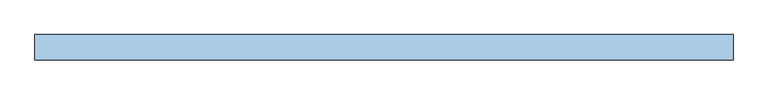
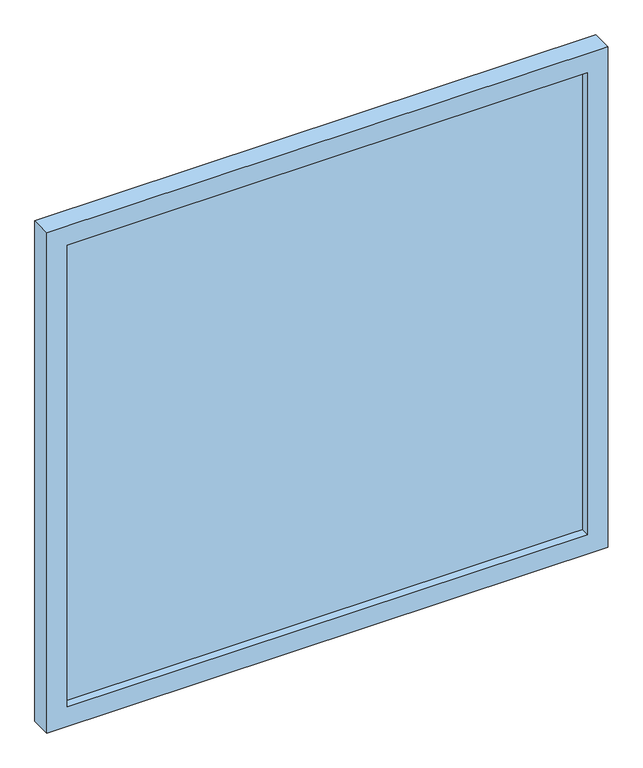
"""IFC4 building model written with IfcOpenShell, lengths in millimetres: window geometry, 固定窗-矩形- (1) : 164.5 * 155 cm."""

from ifc_helpers import new_model, si_unit, frame, origin, place, context, project, spatial, polyline, outline, extrude, source, transform, mapped, element, save


def window_89e4bd1d(model_context):
    return source(origin(), model_context, "Body", "SweptSolid", [
        extrude(outline(polyline([(2550.0, 822.5), (2550.0, -822.5), (1000.0, -822.5), (1000.0, 822.5), (2550.0, 822.5)]), holes=[polyline([(2490.0, 762.5), (1060.0, 762.5), (1060.0, -762.5), (2490.0, -762.5), (2490.0, 762.5)])]), frame((0.0, -60.0, 0.0), z_axis=(0.0, 1.0, 0.0), x_axis=(0.0, 0.0, 1.0)), (0.0, 0.0, 1.0), 60.0),
        extrude(outline(polyline([(-762.5, -25.0), (762.5, -25.0), (762.5, -35.0), (-762.5, -35.0), (-762.5, -25.0)])), frame((0.0, 0.0, 1060.0), z_axis=(0.0, 0.0, 1.0), x_axis=(1.0, 0.0, 0.0)), (0.0, 0.0, 1.0), 1430.0),
    ])


if __name__ == "__main__":
    model = new_model("IFC4")
    model_context = context("Model", 3, world=origin())
    ifc_project = project(units=[si_unit("LENGTHUNIT", "METRE", prefix="MILLI")], contexts=[model_context])
    site = spatial("IfcSite", under=ifc_project)
    building = spatial("IfcBuilding", under=site)
    placement = place(None, origin())
    window_shape = window_89e4bd1d(model_context)
    element("IfcWindow", 1, ObjectType="固定窗-矩形- (1) : 164.5 * 155 cm", at=placement, inside=building, context=model_context, shape_type="MappedRepresentation", body=[
        mapped(window_shape, transform((0.0, 0.0, 0.0), x_axis=(1.0, 0.0, 0.0), y_axis=(0.0, 1.0, 0.0), z_axis=(0.0, 0.0, 1.0))),
    ])
    save(model, "model.ifc")
